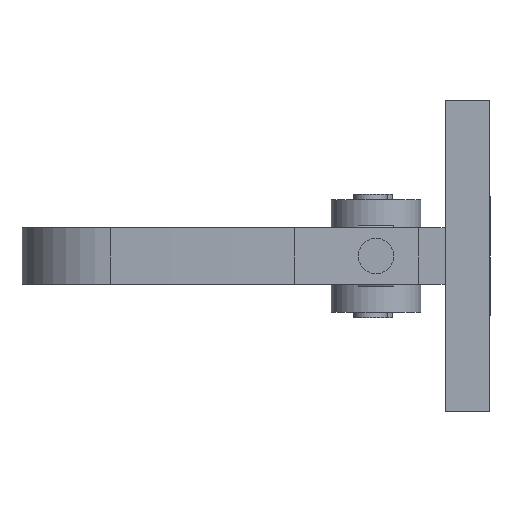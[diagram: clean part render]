
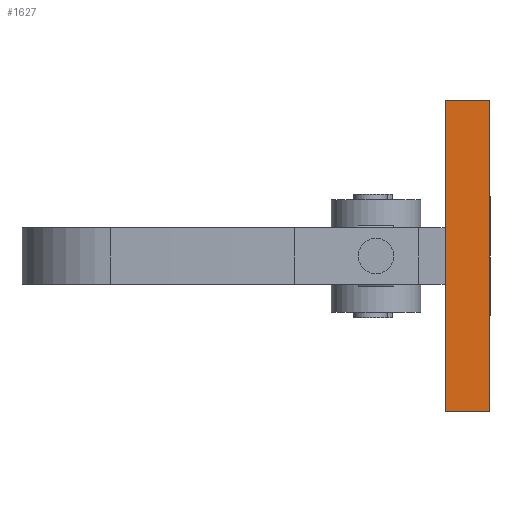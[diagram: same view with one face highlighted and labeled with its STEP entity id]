
A CAD part, left-side view. The second image highlights one B-rep face of the part: STEP entity #1627.
In plain terms, the highlighted planar face has unit normal (-1, 0, 0) as drawn and (0, 0, 1) by its records, which use the part's own axes.
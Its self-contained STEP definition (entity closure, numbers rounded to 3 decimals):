
#116 = DIRECTION ( 'NONE',  ( 1., 0., 0. ) ) ;
#155 = VECTOR ( 'NONE', #116, 1000. ) ;
#250 = VECTOR ( 'NONE', #1960, 1000. ) ;
#281 = PLANE ( 'NONE',  #3456 ) ;
#340 = VERTEX_POINT ( 'NONE', #3122 ) ;
#364 = VERTEX_POINT ( 'NONE', #3134 ) ;
#1216 = ORIENTED_EDGE ( 'NONE', *, *, #3027, .T. ) ;
#1329 = CARTESIAN_POINT ( 'NONE',  ( 44., -12.7, 20. ) ) ;
#1581 = DIRECTION ( 'NONE',  ( 0., 0., 1. ) ) ;
#1627 = ADVANCED_FACE ( 'NONE', ( #4117 ), #281, .T. ) ;
#1678 = DIRECTION ( 'NONE',  ( 1., 0., 0. ) ) ;
#1868 = CARTESIAN_POINT ( 'NONE',  ( 44., -12.7, 20. ) ) ;
#1960 = DIRECTION ( 'NONE',  ( 0., 1., 0. ) ) ;
#2154 = ORIENTED_EDGE ( 'NONE', *, *, #2596, .F. ) ;
#2390 = EDGE_CURVE ( 'NONE', #4209, #364, #4115, .T. ) ;
#2398 = LINE ( 'NONE', #2758, #2736 ) ;
#2490 = ORIENTED_EDGE ( 'NONE', *, *, #3194, .F. ) ;
#2596 = EDGE_CURVE ( 'NONE', #340, #3400, #3359, .T. ) ;
#2640 = CARTESIAN_POINT ( 'NONE',  ( 44., -12.7, 20. ) ) ;
#2692 = VECTOR ( 'NONE', #3552, 1000. ) ;
#2721 = CARTESIAN_POINT ( 'NONE',  ( -44., 0., 20. ) ) ;
#2736 = VECTOR ( 'NONE', #1678, 1000. ) ;
#2758 = CARTESIAN_POINT ( 'NONE',  ( 44., 0., 20. ) ) ;
#3027 = EDGE_CURVE ( 'NONE', #340, #4209, #3097, .T. ) ;
#3097 = LINE ( 'NONE', #1329, #155 ) ;
#3122 = CARTESIAN_POINT ( 'NONE',  ( -44., -12.7, 20. ) ) ;
#3134 = CARTESIAN_POINT ( 'NONE',  ( 44., 0., 20. ) ) ;
#3194 = EDGE_CURVE ( 'NONE', #3400, #364, #2398, .T. ) ;
#3359 = LINE ( 'NONE', #3567, #2692 ) ;
#3400 = VERTEX_POINT ( 'NONE', #2721 ) ;
#3456 = AXIS2_PLACEMENT_3D ( 'NONE', #4256, #1581, #3536 ) ;
#3536 = DIRECTION ( 'NONE',  ( 1., 0., 0. ) ) ;
#3552 = DIRECTION ( 'NONE',  ( 0., 1., 0. ) ) ;
#3567 = CARTESIAN_POINT ( 'NONE',  ( -44., -12.7, 20. ) ) ;
#3738 = ORIENTED_EDGE ( 'NONE', *, *, #2390, .T. ) ;
#3834 = EDGE_LOOP ( 'NONE', ( #2490, #2154, #1216, #3738 ) ) ;
#4115 = LINE ( 'NONE', #2640, #250 ) ;
#4117 = FACE_OUTER_BOUND ( 'NONE', #3834, .T. ) ;
#4209 = VERTEX_POINT ( 'NONE', #1868 ) ;
#4256 = CARTESIAN_POINT ( 'NONE',  ( 44., -12.7, 20. ) ) ;
